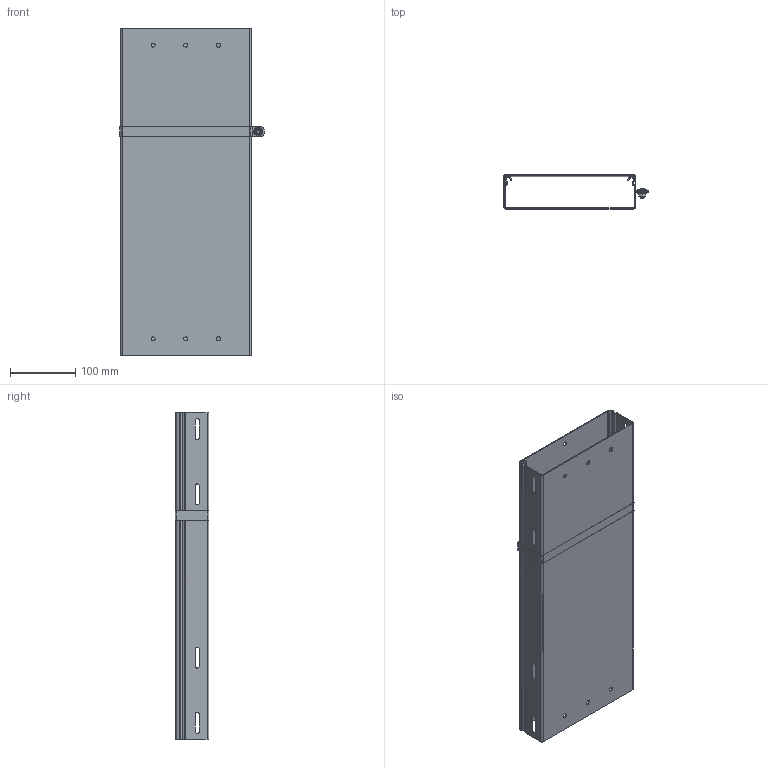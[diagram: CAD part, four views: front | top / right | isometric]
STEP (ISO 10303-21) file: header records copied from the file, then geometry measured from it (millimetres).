
FILE_DESCRIPTION (( 'STEP AP214' ), '1' );
FILE_NAME ('OSTEC-ﾓﾋﾍ500-ﾕﾊﾓ-ﾊﾋﾇﾒ(ﾓﾋ).STEP', '2016-09-21T07:23:42', ( '' ), ( '' ), 'SwSTEP 2.0', 'SolidWorks 2016', '' );
FILE_SCHEMA (( 'AUTOMOTIVE_DESIGN' ));
Length unit declared in the file: millimetre
Products named in the file (6): 067609 襟6捘_Hexagon Flange Nut DIN 6923 - M6 - N; Âèíò Ì6_‚¨­â 6å10; 043355-043362 ﾕﾊﾓ; ﾊﾋﾇﾒ ﾓﾋ_200 ､ｫｨｭ 500; ÓËÍ 200õ50_500; OSTEC-ﾓﾋﾍ500-ﾕﾊﾓ-ﾊﾋﾇﾒ(ﾓﾋ)
Assembly tree (5 placements, depth 2):
  OSTEC-ﾓﾋﾍ500-ﾕﾊﾓ-ﾊﾋﾇﾒ(ﾓﾋ)
    ÓËÍ 200õ50_500
    ﾊﾋﾇﾒ ﾓﾋ_200 ､ｫｨｭ 500
    043355-043362 ﾕﾊﾓ
    Âèíò Ì6_‚¨­â 6å10
    067609 襟6捘_Hexagon Flange Nut DIN 6923 - M6 - N
Bounding box: 221 x 52 x 500 mm (x, y, z)
Volume: 351471.5 mm3; surface area: 551155.4 mm2
Topology: 5 solids, 5 shells, 388 faces, 898 edges, 517 vertices
Faces by surface type: plane 155, cylinder 124, bspline 54, torus 25, sphere 16, cone 14
Entity records: 12142 total; most frequent: CARTESIAN_POINT 3345, DIRECTION 1808, ORIENTED_EDGE 1788, EDGE_CURVE 894, AXIS2_PLACEMENT_3D 698, VERTEX_POINT 517, EDGE_LOOP 427, VECTOR 412
